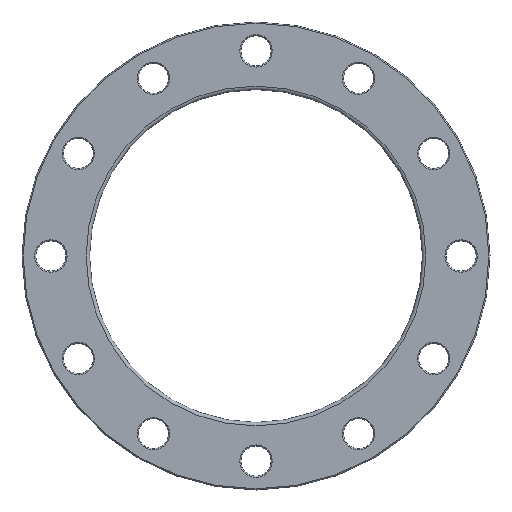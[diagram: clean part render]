
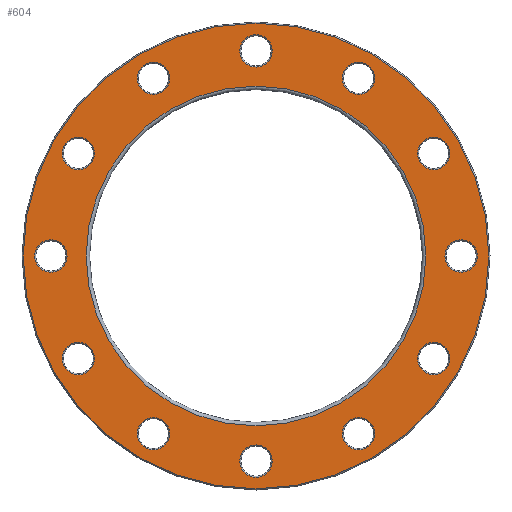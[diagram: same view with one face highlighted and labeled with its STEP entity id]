
A CAD part, front view. The second image highlights one B-rep face of the part: STEP entity #604.
In plain terms, the highlighted planar face has unit normal (0, -1, 0).
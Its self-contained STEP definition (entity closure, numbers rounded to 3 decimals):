
#23=PLANE('',#712);
#134=ORIENTED_EDGE('',*,*,#213,.T.);
#135=ORIENTED_EDGE('',*,*,#214,.T.);
#136=ORIENTED_EDGE('',*,*,#164,.T.);
#137=ORIENTED_EDGE('',*,*,#168,.T.);
#138=ORIENTED_EDGE('',*,*,#172,.T.);
#139=ORIENTED_EDGE('',*,*,#176,.T.);
#140=ORIENTED_EDGE('',*,*,#180,.T.);
#141=ORIENTED_EDGE('',*,*,#184,.T.);
#142=ORIENTED_EDGE('',*,*,#188,.T.);
#143=ORIENTED_EDGE('',*,*,#192,.T.);
#144=ORIENTED_EDGE('',*,*,#196,.T.);
#145=ORIENTED_EDGE('',*,*,#200,.T.);
#146=ORIENTED_EDGE('',*,*,#204,.T.);
#147=ORIENTED_EDGE('',*,*,#215,.T.);
#164=EDGE_CURVE('',#220,#220,#276,.T.);
#168=EDGE_CURVE('',#224,#224,#280,.T.);
#172=EDGE_CURVE('',#228,#228,#284,.T.);
#176=EDGE_CURVE('',#232,#232,#288,.T.);
#180=EDGE_CURVE('',#236,#236,#292,.T.);
#184=EDGE_CURVE('',#240,#240,#296,.T.);
#188=EDGE_CURVE('',#244,#244,#300,.T.);
#192=EDGE_CURVE('',#248,#248,#304,.T.);
#196=EDGE_CURVE('',#252,#252,#308,.T.);
#200=EDGE_CURVE('',#256,#256,#312,.T.);
#204=EDGE_CURVE('',#260,#260,#316,.T.);
#213=EDGE_CURVE('',#269,#269,#325,.F.);
#214=EDGE_CURVE('',#270,#270,#326,.T.);
#215=EDGE_CURVE('',#271,#271,#327,.T.);
#220=VERTEX_POINT('',#935);
#224=VERTEX_POINT('',#946);
#228=VERTEX_POINT('',#957);
#232=VERTEX_POINT('',#968);
#236=VERTEX_POINT('',#979);
#240=VERTEX_POINT('',#990);
#244=VERTEX_POINT('',#1001);
#248=VERTEX_POINT('',#1012);
#252=VERTEX_POINT('',#1023);
#256=VERTEX_POINT('',#1034);
#260=VERTEX_POINT('',#1045);
#269=VERTEX_POINT('',#1068);
#270=VERTEX_POINT('',#1070);
#271=VERTEX_POINT('',#1072);
#276=CIRCLE('',#629,14.);
#280=CIRCLE('',#636,14.);
#284=CIRCLE('',#643,14.);
#288=CIRCLE('',#650,14.);
#292=CIRCLE('',#657,14.);
#296=CIRCLE('',#664,14.);
#300=CIRCLE('',#671,14.);
#304=CIRCLE('',#678,14.);
#308=CIRCLE('',#685,14.);
#312=CIRCLE('',#692,14.);
#316=CIRCLE('',#699,14.);
#325=CIRCLE('',#713,201.5);
#326=CIRCLE('',#714,147.);
#327=CIRCLE('',#715,14.);
#414=EDGE_LOOP('',(#134));
#415=EDGE_LOOP('',(#135));
#416=EDGE_LOOP('',(#136));
#417=EDGE_LOOP('',(#137));
#418=EDGE_LOOP('',(#138));
#419=EDGE_LOOP('',(#139));
#420=EDGE_LOOP('',(#140));
#421=EDGE_LOOP('',(#141));
#422=EDGE_LOOP('',(#142));
#423=EDGE_LOOP('',(#143));
#424=EDGE_LOOP('',(#144));
#425=EDGE_LOOP('',(#145));
#426=EDGE_LOOP('',(#146));
#427=EDGE_LOOP('',(#147));
#526=FACE_BOUND('',#414,.T.);
#527=FACE_BOUND('',#415,.T.);
#528=FACE_BOUND('',#416,.T.);
#529=FACE_BOUND('',#417,.T.);
#530=FACE_BOUND('',#418,.T.);
#531=FACE_BOUND('',#419,.T.);
#532=FACE_BOUND('',#420,.T.);
#533=FACE_BOUND('',#421,.T.);
#534=FACE_BOUND('',#422,.T.);
#535=FACE_BOUND('',#423,.T.);
#536=FACE_BOUND('',#424,.T.);
#537=FACE_BOUND('',#425,.T.);
#538=FACE_BOUND('',#426,.T.);
#539=FACE_BOUND('',#427,.T.);
#604=ADVANCED_FACE('',(#526,#527,#528,#529,#530,#531,#532,#533,#534,#535,
#536,#537,#538,#539),#23,.F.);
#629=AXIS2_PLACEMENT_3D('',#934,#735,#736);
#636=AXIS2_PLACEMENT_3D('',#945,#749,#750);
#643=AXIS2_PLACEMENT_3D('',#956,#763,#764);
#650=AXIS2_PLACEMENT_3D('',#967,#777,#778);
#657=AXIS2_PLACEMENT_3D('',#978,#791,#792);
#664=AXIS2_PLACEMENT_3D('',#989,#805,#806);
#671=AXIS2_PLACEMENT_3D('',#1000,#819,#820);
#678=AXIS2_PLACEMENT_3D('',#1011,#833,#834);
#685=AXIS2_PLACEMENT_3D('',#1022,#847,#848);
#692=AXIS2_PLACEMENT_3D('',#1033,#861,#862);
#699=AXIS2_PLACEMENT_3D('',#1044,#875,#876);
#712=AXIS2_PLACEMENT_3D('',#1066,#901,#902);
#713=AXIS2_PLACEMENT_3D('',#1067,#903,#904);
#714=AXIS2_PLACEMENT_3D('',#1069,#905,#906);
#715=AXIS2_PLACEMENT_3D('',#1071,#907,#908);
#735=DIRECTION('',(0.,1.,0.));
#736=DIRECTION('',(0.866,0.,0.5));
#749=DIRECTION('',(0.,1.,0.));
#750=DIRECTION('',(0.5,0.,0.866));
#763=DIRECTION('',(0.,1.,0.));
#764=DIRECTION('',(0.,0.,1.));
#777=DIRECTION('',(0.,1.,0.));
#778=DIRECTION('',(-0.5,0.,0.866));
#791=DIRECTION('',(0.,1.,0.));
#792=DIRECTION('',(-0.866,0.,0.5));
#805=DIRECTION('',(0.,1.,0.));
#806=DIRECTION('',(-1.,0.,0.));
#819=DIRECTION('',(0.,1.,0.));
#820=DIRECTION('',(-0.866,0.,-0.5));
#833=DIRECTION('',(0.,1.,0.));
#834=DIRECTION('',(-0.5,0.,-0.866));
#847=DIRECTION('',(0.,1.,0.));
#848=DIRECTION('',(0.,0.,-1.));
#861=DIRECTION('',(0.,1.,0.));
#862=DIRECTION('',(0.5,0.,-0.866));
#875=DIRECTION('',(0.,1.,0.));
#876=DIRECTION('',(0.866,0.,-0.5));
#901=DIRECTION('',(0.,1.,0.));
#902=DIRECTION('',(0.,0.,1.));
#903=DIRECTION('',(0.,1.,0.));
#904=DIRECTION('',(0.,0.,1.));
#905=DIRECTION('',(0.,1.,0.));
#906=DIRECTION('',(0.,0.,1.));
#907=DIRECTION('',(0.,1.,0.));
#908=DIRECTION('',(1.,0.,0.));
#934=CARTESIAN_POINT('',(-88.75,0.,153.72));
#935=CARTESIAN_POINT('',(-76.626,0.,160.72));
#945=CARTESIAN_POINT('',(-153.72,0.,88.75));
#946=CARTESIAN_POINT('',(-146.72,0.,100.874));
#956=CARTESIAN_POINT('',(-177.5,0.,0.));
#957=CARTESIAN_POINT('',(-177.5,0.,14.));
#967=CARTESIAN_POINT('',(-153.72,0.,-88.75));
#968=CARTESIAN_POINT('',(-160.72,0.,-76.626));
#978=CARTESIAN_POINT('',(-88.75,0.,-153.72));
#979=CARTESIAN_POINT('',(-100.874,0.,-146.72));
#989=CARTESIAN_POINT('',(0.,0.,-177.5));
#990=CARTESIAN_POINT('',(-14.,0.,-177.5));
#1000=CARTESIAN_POINT('',(88.75,0.,-153.72));
#1001=CARTESIAN_POINT('',(76.626,0.,-160.72));
#1011=CARTESIAN_POINT('',(153.72,0.,-88.75));
#1012=CARTESIAN_POINT('',(146.72,0.,-100.874));
#1022=CARTESIAN_POINT('',(177.5,0.,0.));
#1023=CARTESIAN_POINT('',(177.5,0.,-14.));
#1033=CARTESIAN_POINT('',(153.72,0.,88.75));
#1034=CARTESIAN_POINT('',(160.72,0.,76.626));
#1044=CARTESIAN_POINT('',(88.75,0.,153.72));
#1045=CARTESIAN_POINT('',(100.874,0.,146.72));
#1066=CARTESIAN_POINT('',(0.,0.,0.));
#1067=CARTESIAN_POINT('',(0.,0.,0.));
#1068=CARTESIAN_POINT('',(0.,0.,201.5));
#1069=CARTESIAN_POINT('',(0.,0.,0.));
#1070=CARTESIAN_POINT('',(0.,0.,147.));
#1071=CARTESIAN_POINT('',(0.,0.,177.5));
#1072=CARTESIAN_POINT('',(14.,0.,177.5));
